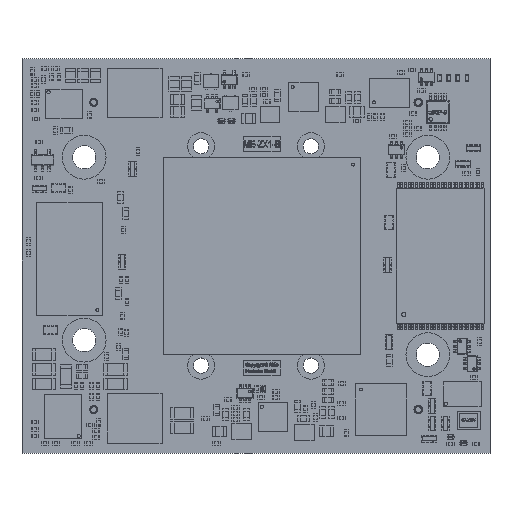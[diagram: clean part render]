
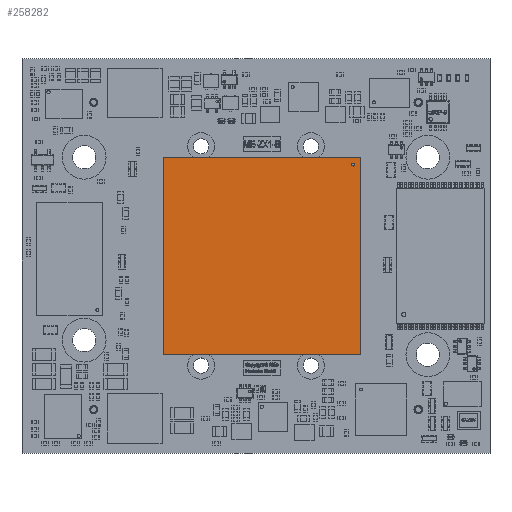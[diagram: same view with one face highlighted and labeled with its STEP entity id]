
A CAD part, top view. The second image highlights one B-rep face of the part: STEP entity #258282.
In plain terms, the highlighted planar face has unit normal (0, 0, 1).
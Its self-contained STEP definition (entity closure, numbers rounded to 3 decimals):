
#257968 = VERTEX_POINT('',#257969);
#257969 = CARTESIAN_POINT('',(-13.5,13.5,3.37));
#257976 = PLANE('',#257977);
#257977 = AXIS2_PLACEMENT_3D('',#257978,#257979,#257980);
#257978 = CARTESIAN_POINT('',(-13.5,13.5,0.));
#257979 = DIRECTION('',(1.,0.,0.));
#257980 = DIRECTION('',(0.,-1.,0.));
#257988 = PLANE('',#257989);
#257989 = AXIS2_PLACEMENT_3D('',#257990,#257991,#257992);
#257990 = CARTESIAN_POINT('',(13.5,13.5,0.));
#257991 = DIRECTION('',(0.,-1.,0.));
#257992 = DIRECTION('',(-1.,0.,0.));
#258000 = EDGE_CURVE('',#257968,#258001,#258003,.T.);
#258001 = VERTEX_POINT('',#258002);
#258002 = CARTESIAN_POINT('',(-13.5,-13.5,3.37));
#258003 = SURFACE_CURVE('',#258004,(#258008,#258015),.PCURVE_S1.);
#258004 = LINE('',#258005,#258006);
#258005 = CARTESIAN_POINT('',(-13.5,13.5,3.37));
#258006 = VECTOR('',#258007,1.);
#258007 = DIRECTION('',(0.,-1.,0.));
#258008 = PCURVE('',#257976,#258009);
#258009 = DEFINITIONAL_REPRESENTATION('',(#258010),#258014);
#258010 = LINE('',#258011,#258012);
#258011 = CARTESIAN_POINT('',(0.,-3.37));
#258012 = VECTOR('',#258013,1.);
#258013 = DIRECTION('',(1.,0.));
#258014 = ( GEOMETRIC_REPRESENTATION_CONTEXT(2) 
PARAMETRIC_REPRESENTATION_CONTEXT() REPRESENTATION_CONTEXT('2D SPACE',''
  ) );
#258015 = PCURVE('',#258016,#258021);
#258016 = PLANE('',#258017);
#258017 = AXIS2_PLACEMENT_3D('',#258018,#258019,#258020);
#258018 = CARTESIAN_POINT('',(-13.5,13.5,3.37));
#258019 = DIRECTION('',(0.,0.,-1.));
#258020 = DIRECTION('',(-1.,0.,0.));
#258021 = DEFINITIONAL_REPRESENTATION('',(#258022),#258026);
#258022 = LINE('',#258023,#258024);
#258023 = CARTESIAN_POINT('',(0.,0.));
#258024 = VECTOR('',#258025,1.);
#258025 = DIRECTION('',(0.,-1.));
#258026 = ( GEOMETRIC_REPRESENTATION_CONTEXT(2) 
PARAMETRIC_REPRESENTATION_CONTEXT() REPRESENTATION_CONTEXT('2D SPACE',''
  ) );
#258044 = PLANE('',#258045);
#258045 = AXIS2_PLACEMENT_3D('',#258046,#258047,#258048);
#258046 = CARTESIAN_POINT('',(-13.5,-13.5,0.));
#258047 = DIRECTION('',(0.,1.,0.));
#258048 = DIRECTION('',(1.,0.,0.));
#258086 = EDGE_CURVE('',#258001,#258087,#258089,.T.);
#258087 = VERTEX_POINT('',#258088);
#258088 = CARTESIAN_POINT('',(13.5,-13.5,3.37));
#258089 = SURFACE_CURVE('',#258090,(#258094,#258101),.PCURVE_S1.);
#258090 = LINE('',#258091,#258092);
#258091 = CARTESIAN_POINT('',(-13.5,-13.5,3.37));
#258092 = VECTOR('',#258093,1.);
#258093 = DIRECTION('',(1.,0.,0.));
#258094 = PCURVE('',#258044,#258095);
#258095 = DEFINITIONAL_REPRESENTATION('',(#258096),#258100);
#258096 = LINE('',#258097,#258098);
#258097 = CARTESIAN_POINT('',(0.,-3.37));
#258098 = VECTOR('',#258099,1.);
#258099 = DIRECTION('',(1.,0.));
#258100 = ( GEOMETRIC_REPRESENTATION_CONTEXT(2) 
PARAMETRIC_REPRESENTATION_CONTEXT() REPRESENTATION_CONTEXT('2D SPACE',''
  ) );
#258101 = PCURVE('',#258016,#258102);
#258102 = DEFINITIONAL_REPRESENTATION('',(#258103),#258107);
#258103 = LINE('',#258104,#258105);
#258104 = CARTESIAN_POINT('',(0.,-27.));
#258105 = VECTOR('',#258106,1.);
#258106 = DIRECTION('',(-1.,0.));
#258107 = ( GEOMETRIC_REPRESENTATION_CONTEXT(2) 
PARAMETRIC_REPRESENTATION_CONTEXT() REPRESENTATION_CONTEXT('2D SPACE',''
  ) );
#258125 = PLANE('',#258126);
#258126 = AXIS2_PLACEMENT_3D('',#258127,#258128,#258129);
#258127 = CARTESIAN_POINT('',(13.5,-13.5,0.));
#258128 = DIRECTION('',(-1.,0.,0.));
#258129 = DIRECTION('',(0.,1.,0.));
#258162 = EDGE_CURVE('',#258087,#258163,#258165,.T.);
#258163 = VERTEX_POINT('',#258164);
#258164 = CARTESIAN_POINT('',(13.5,13.5,3.37));
#258165 = SURFACE_CURVE('',#258166,(#258170,#258177),.PCURVE_S1.);
#258166 = LINE('',#258167,#258168);
#258167 = CARTESIAN_POINT('',(13.5,-13.5,3.37));
#258168 = VECTOR('',#258169,1.);
#258169 = DIRECTION('',(0.,1.,0.));
#258170 = PCURVE('',#258125,#258171);
#258171 = DEFINITIONAL_REPRESENTATION('',(#258172),#258176);
#258172 = LINE('',#258173,#258174);
#258173 = CARTESIAN_POINT('',(0.,-3.37));
#258174 = VECTOR('',#258175,1.);
#258175 = DIRECTION('',(1.,0.));
#258176 = ( GEOMETRIC_REPRESENTATION_CONTEXT(2) 
PARAMETRIC_REPRESENTATION_CONTEXT() REPRESENTATION_CONTEXT('2D SPACE',''
  ) );
#258177 = PCURVE('',#258016,#258178);
#258178 = DEFINITIONAL_REPRESENTATION('',(#258179),#258183);
#258179 = LINE('',#258180,#258181);
#258180 = CARTESIAN_POINT('',(-27.,-27.));
#258181 = VECTOR('',#258182,1.);
#258182 = DIRECTION('',(0.,1.));
#258183 = ( GEOMETRIC_REPRESENTATION_CONTEXT(2) 
PARAMETRIC_REPRESENTATION_CONTEXT() REPRESENTATION_CONTEXT('2D SPACE',''
  ) );
#258233 = EDGE_CURVE('',#258163,#257968,#258234,.T.);
#258234 = SURFACE_CURVE('',#258235,(#258239,#258246),.PCURVE_S1.);
#258235 = LINE('',#258236,#258237);
#258236 = CARTESIAN_POINT('',(13.5,13.5,3.37));
#258237 = VECTOR('',#258238,1.);
#258238 = DIRECTION('',(-1.,0.,0.));
#258239 = PCURVE('',#257988,#258240);
#258240 = DEFINITIONAL_REPRESENTATION('',(#258241),#258245);
#258241 = LINE('',#258242,#258243);
#258242 = CARTESIAN_POINT('',(0.,-3.37));
#258243 = VECTOR('',#258244,1.);
#258244 = DIRECTION('',(1.,0.));
#258245 = ( GEOMETRIC_REPRESENTATION_CONTEXT(2) 
PARAMETRIC_REPRESENTATION_CONTEXT() REPRESENTATION_CONTEXT('2D SPACE',''
  ) );
#258246 = PCURVE('',#258016,#258247);
#258247 = DEFINITIONAL_REPRESENTATION('',(#258248),#258252);
#258248 = LINE('',#258249,#258250);
#258249 = CARTESIAN_POINT('',(-27.,0.));
#258250 = VECTOR('',#258251,1.);
#258251 = DIRECTION('',(1.,0.));
#258252 = ( GEOMETRIC_REPRESENTATION_CONTEXT(2) 
PARAMETRIC_REPRESENTATION_CONTEXT() REPRESENTATION_CONTEXT('2D SPACE',''
  ) );
#258282 = ADVANCED_FACE('',(#258283),#258016,.F.);
#258283 = FACE_BOUND('',#258284,.T.);
#258284 = EDGE_LOOP('',(#258285,#258286,#258287,#258288));
#258285 = ORIENTED_EDGE('',*,*,#258000,.T.);
#258286 = ORIENTED_EDGE('',*,*,#258086,.T.);
#258287 = ORIENTED_EDGE('',*,*,#258162,.T.);
#258288 = ORIENTED_EDGE('',*,*,#258233,.T.);
